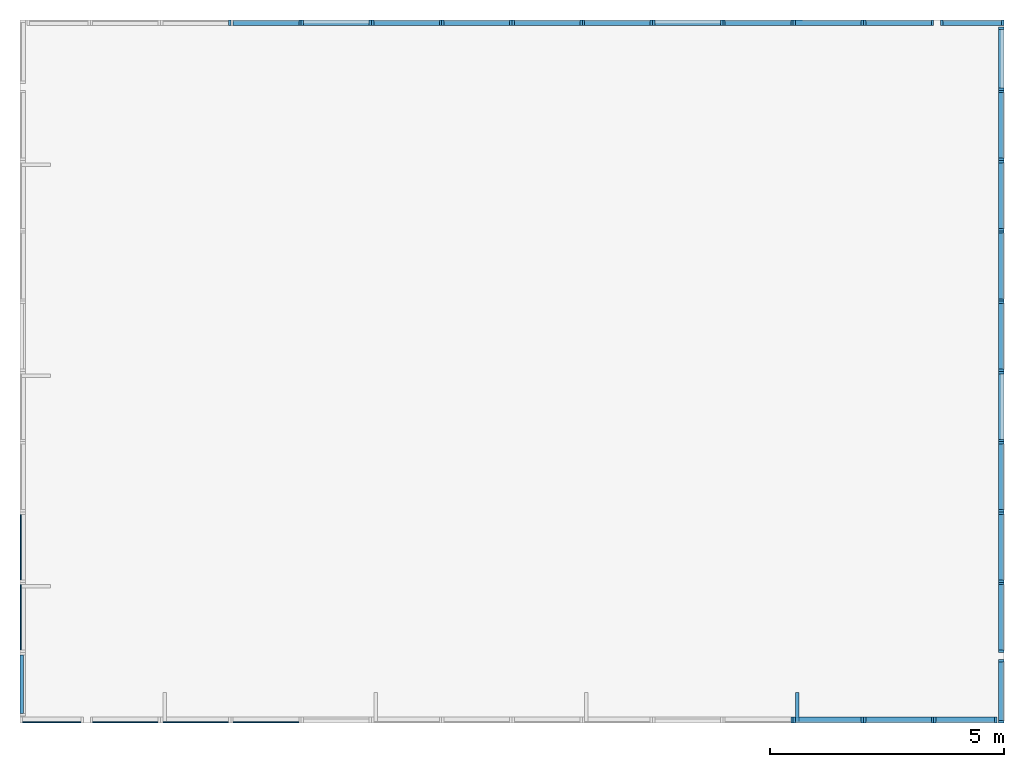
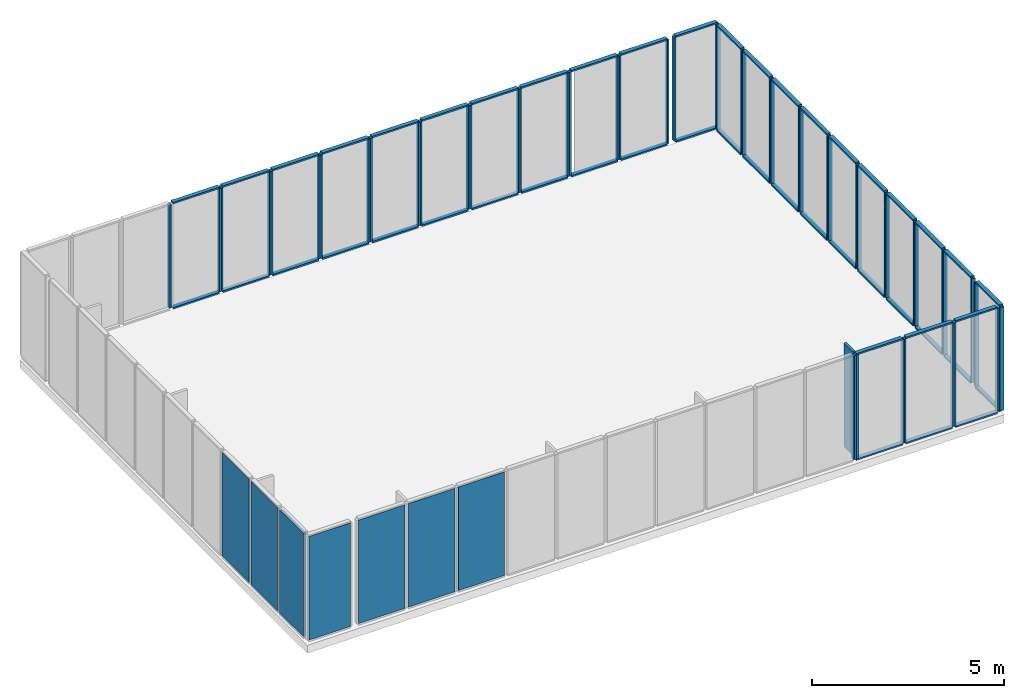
# One storey, part 2 of 3: 98 members, 7 plates.
"""IFC4 building model written with IfcOpenShell, lengths in metres."""

from ifc_helpers import new_model, si_unit, frame, origin_with_axes, place, context, subcontext, project, spatial, indexed_curve, outline, extrude, material, element, save


model = new_model("IFC4")

# Units and contexts
model_context = context("Model", 3, precision=1e-05, world=origin_with_axes())
body_context = subcontext(model_context, "Body", "Model", "MODEL_VIEW")
ifc_project = project(units=[si_unit("AREAUNIT", "SQUARE_METRE"), si_unit("VOLUMEUNIT", "CUBIC_METRE"), si_unit("LENGTHUNIT", "METRE")], contexts=[model_context])

# Site, building, storey
site = spatial("IfcSite", under=ifc_project, Name="Synthetic Site")
building = spatial("IfcBuilding", under=site, Name="Complex Tower")
storey_placement = place(None, frame((0.0, 0.0, 27.0), z_axis=(0.0, 0.0, 1.0), x_axis=(1.0, 0.0, 0.0)))
storey = spatial("IfcBuildingStorey", under=building, at=storey_placement, Name="L08", Elevation=27.0)

# Members
ifc_material_1 = material(Name="Aluminium")
for number, where, z_axis, x_axis, name in (
    (1, (19.45, 1.5, 0.14999999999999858), (0.0, 0.0, 1.0), (1.0, 0.0, 0.0), "CT-L08-S-011-MR"),
    (2, (19.5, 1.5, 0.14999999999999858), (0.0, 0.0, 1.0), (1.0, 0.0, 0.0), "CT-L08-S-012-ML"),
    (3, (20.95, 1.5, 0.14999999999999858), (0.0, 0.0, 1.0), (1.0, 0.0, 0.0), "CT-L08-S-012-MR"),
):
    element("IfcMember", number, at=place(storey_placement, frame(where, z_axis=z_axis, x_axis=x_axis)), inside=storey, material=ifc_material_1, Name=name, PredefinedType="MULLION", context=body_context, shape_type="SweptSolid", body=[
        extrude(outline(indexed_curve([(0.0, 0.0), (0.0, 0.12), (0.05, 0.12), (0.05, 0.0), (0.0, 0.0)], self_intersect=False)), origin_with_axes(), (0.0, 0.0, 1.0), 3.3000000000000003),
    ])
for number, where, z_axis, x_axis, name in (
    (4, (19.55, 1.5, 0.09999999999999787), (0.0, 0.0, 1.0), (1.0, 0.0, 0.0), "CT-L08-S-012-FB"),
    (5, (19.55, 1.5, 3.4499999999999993), (0.0, 0.0, 1.0), (1.0, 0.0, 0.0), "CT-L08-S-012-FT"),
):
    element("IfcMember", number, at=place(storey_placement, frame(where, z_axis=z_axis, x_axis=x_axis)), inside=storey, material=ifc_material_1, Name=name, PredefinedType="MULLION", context=body_context, shape_type="SweptSolid", body=[
        extrude(outline(indexed_curve([(0.0, 0.0), (0.0, 0.12), (1.4, 0.12), (1.4, 0.0), (0.0, 0.0)], self_intersect=False)), origin_with_axes(), (0.0, 0.0, 1.0), 0.05),
    ])
member_1_placement = place(storey_placement, frame((19.55, 1.5, 0.14999999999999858), z_axis=(0.0, 0.0, 1.0), x_axis=(1.0, 0.0, 0.0)))
element("IfcMember", 6, at=member_1_placement, inside=storey, material=ifc_material_1, Name="CT-L08-S-012-FIN", ObjectType="Solar shading", PredefinedType="USERDEFINED", context=body_context, shape_type="SweptSolid", body=[
    extrude(outline(indexed_curve([(0.0, 0.0), (0.0, 0.65), (0.075, 0.65), (0.075, 0.0), (0.0, 0.0)], self_intersect=False)), origin_with_axes(), (0.0, 0.0, 1.0), 3.3000000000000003),
])
for number, where, z_axis, x_axis, name in (
    (7, (21.0, 1.5, 0.14999999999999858), (0.0, 0.0, 1.0), (1.0, 0.0, 0.0), "CT-L08-S-013-ML"),
    (8, (22.45, 1.5, 0.14999999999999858), (0.0, 0.0, 1.0), (1.0, 0.0, 0.0), "CT-L08-S-013-MR"),
):
    element("IfcMember", number, at=place(storey_placement, frame(where, z_axis=z_axis, x_axis=x_axis)), inside=storey, material=ifc_material_1, Name=name, PredefinedType="MULLION", context=body_context, shape_type="SweptSolid", body=[
        extrude(outline(indexed_curve([(0.0, 0.0), (0.0, 0.12), (0.05, 0.12), (0.05, 0.0), (0.0, 0.0)], self_intersect=False)), origin_with_axes(), (0.0, 0.0, 1.0), 3.3000000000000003),
    ])
for number, where, z_axis, x_axis, name in (
    (9, (21.05, 1.5, 0.09999999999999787), (0.0, 0.0, 1.0), (1.0, 0.0, 0.0), "CT-L08-S-013-FB"),
    (10, (21.05, 1.5, 3.4499999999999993), (0.0, 0.0, 1.0), (1.0, 0.0, 0.0), "CT-L08-S-013-FT"),
):
    element("IfcMember", number, at=place(storey_placement, frame(where, z_axis=z_axis, x_axis=x_axis)), inside=storey, material=ifc_material_1, Name=name, PredefinedType="MULLION", context=body_context, shape_type="SweptSolid", body=[
        extrude(outline(indexed_curve([(0.0, 0.0), (0.0, 0.12), (1.4, 0.12), (1.4, 0.0), (0.0, 0.0)], self_intersect=False)), origin_with_axes(), (0.0, 0.0, 1.0), 0.05),
    ])
for number, where, z_axis, x_axis, name in (
    (11, (22.5, 1.5, 0.14999999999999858), (0.0, 0.0, 1.0), (1.0, 0.0, 0.0), "CT-L08-S-014-ML"),
    (12, (23.8, 1.5, 0.14999999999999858), (0.0, 0.0, 1.0), (1.0, 0.0, 0.0), "CT-L08-S-014-MR"),
):
    element("IfcMember", number, at=place(storey_placement, frame(where, z_axis=z_axis, x_axis=x_axis)), inside=storey, material=ifc_material_1, Name=name, PredefinedType="MULLION", context=body_context, shape_type="SweptSolid", body=[
        extrude(outline(indexed_curve([(0.0, 0.0), (0.0, 0.12), (0.05, 0.12), (0.05, 0.0), (0.0, 0.0)], self_intersect=False)), origin_with_axes(), (0.0, 0.0, 1.0), 3.3000000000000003),
    ])
for number, where, z_axis, x_axis, name in (
    (13, (22.55, 1.5, 0.09999999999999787), (0.0, 0.0, 1.0), (1.0, 0.0, 0.0), "CT-L08-S-014-FB"),
    (14, (22.55, 1.5, 3.4499999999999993), (0.0, 0.0, 1.0), (1.0, 0.0, 0.0), "CT-L08-S-014-FT"),
):
    element("IfcMember", number, at=place(storey_placement, frame(where, z_axis=z_axis, x_axis=x_axis)), inside=storey, material=ifc_material_1, Name=name, PredefinedType="MULLION", context=body_context, shape_type="SweptSolid", body=[
        extrude(outline(indexed_curve([(0.0, 0.0), (0.0, 0.12), (1.25, 0.12), (1.25, 0.0), (0.0, 0.0)], self_intersect=False)), origin_with_axes(), (0.0, 0.0, 1.0), 0.05),
    ])
for number, where, z_axis, x_axis, name in (
    (15, (24.0, 1.5, 0.14999999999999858), (0.0, 0.0, 1.0), (6.123233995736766e-17, 1.0, 0.0), "CT-L08-E-001-ML"),
    (16, (24.0, 2.8, 0.14999999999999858), (0.0, 0.0, 1.0), (6.123233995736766e-17, 1.0, 0.0), "CT-L08-E-001-MR"),
):
    element("IfcMember", number, at=place(storey_placement, frame(where, z_axis=z_axis, x_axis=x_axis)), inside=storey, material=ifc_material_1, Name=name, PredefinedType="MULLION", context=body_context, shape_type="SweptSolid", body=[
        extrude(outline(indexed_curve([(0.0, 0.0), (0.0, 0.12), (0.05, 0.12), (0.05, 0.0), (0.0, 0.0)], self_intersect=False)), origin_with_axes(), (0.0, 0.0, 1.0), 3.3000000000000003),
    ])
for number, where, z_axis, x_axis, name in (
    (17, (24.0, 1.55, 0.09999999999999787), (0.0, 0.0, 1.0), (6.123233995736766e-17, 1.0, 0.0), "CT-L08-E-001-FB"),
    (18, (24.0, 1.55, 3.4499999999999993), (0.0, 0.0, 1.0), (6.123233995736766e-17, 1.0, 0.0), "CT-L08-E-001-FT"),
):
    element("IfcMember", number, at=place(storey_placement, frame(where, z_axis=z_axis, x_axis=x_axis)), inside=storey, material=ifc_material_1, Name=name, PredefinedType="MULLION", context=body_context, shape_type="SweptSolid", body=[
        extrude(outline(indexed_curve([(0.0, 0.0), (0.0, 0.12), (1.25, 0.12), (1.25, 0.0), (0.0, 0.0)], self_intersect=False)), origin_with_axes(), (0.0, 0.0, 1.0), 0.05),
    ])
for number, where, z_axis, x_axis, name in (
    (19, (24.0, 3.0, 0.14999999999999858), (0.0, 0.0, 1.0), (6.123233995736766e-17, 1.0, 0.0), "CT-L08-E-002-ML"),
    (20, (24.0, 4.449999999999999, 0.14999999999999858), (0.0, 0.0, 1.0), (6.123233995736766e-17, 1.0, 0.0), "CT-L08-E-002-MR"),
):
    element("IfcMember", number, at=place(storey_placement, frame(where, z_axis=z_axis, x_axis=x_axis)), inside=storey, material=ifc_material_1, Name=name, PredefinedType="MULLION", context=body_context, shape_type="SweptSolid", body=[
        extrude(outline(indexed_curve([(0.0, 0.0), (0.0, 0.12), (0.05, 0.12), (0.05, 0.0), (0.0, 0.0)], self_intersect=False)), origin_with_axes(), (0.0, 0.0, 1.0), 3.3000000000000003),
    ])
for number, where, z_axis, x_axis, name in (
    (21, (24.0, 3.05, 0.09999999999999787), (0.0, 0.0, 1.0), (6.123233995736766e-17, 1.0, 0.0), "CT-L08-E-002-FB"),
    (22, (24.0, 3.05, 3.4499999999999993), (0.0, 0.0, 1.0), (6.123233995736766e-17, 1.0, 0.0), "CT-L08-E-002-FT"),
):
    element("IfcMember", number, at=place(storey_placement, frame(where, z_axis=z_axis, x_axis=x_axis)), inside=storey, material=ifc_material_1, Name=name, PredefinedType="MULLION", context=body_context, shape_type="SweptSolid", body=[
        extrude(outline(indexed_curve([(0.0, 0.0), (0.0, 0.12), (1.4, 0.12), (1.4, 0.0), (0.0, 0.0)], self_intersect=False)), origin_with_axes(), (0.0, 0.0, 1.0), 0.05),
    ])
for number, where, z_axis, x_axis, name in (
    (23, (24.0, 4.5, 0.14999999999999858), (0.0, 0.0, 1.0), (6.123233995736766e-17, 1.0, 0.0), "CT-L08-E-003-ML"),
    (24, (24.0, 5.949999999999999, 0.14999999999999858), (0.0, 0.0, 1.0), (6.123233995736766e-17, 1.0, 0.0), "CT-L08-E-003-MR"),
):
    element("IfcMember", number, at=place(storey_placement, frame(where, z_axis=z_axis, x_axis=x_axis)), inside=storey, material=ifc_material_1, Name=name, PredefinedType="MULLION", context=body_context, shape_type="SweptSolid", body=[
        extrude(outline(indexed_curve([(0.0, 0.0), (0.0, 0.12), (0.05, 0.12), (0.05, 0.0), (0.0, 0.0)], self_intersect=False)), origin_with_axes(), (0.0, 0.0, 1.0), 3.3000000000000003),
    ])
for number, where, z_axis, x_axis, name in (
    (25, (24.0, 4.55, 0.09999999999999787), (0.0, 0.0, 1.0), (6.123233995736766e-17, 1.0, 0.0), "CT-L08-E-003-FB"),
    (26, (24.0, 4.55, 3.4499999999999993), (0.0, 0.0, 1.0), (6.123233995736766e-17, 1.0, 0.0), "CT-L08-E-003-FT"),
):
    element("IfcMember", number, at=place(storey_placement, frame(where, z_axis=z_axis, x_axis=x_axis)), inside=storey, material=ifc_material_1, Name=name, PredefinedType="MULLION", context=body_context, shape_type="SweptSolid", body=[
        extrude(outline(indexed_curve([(0.0, 0.0), (0.0, 0.12), (1.4, 0.12), (1.4, 0.0), (0.0, 0.0)], self_intersect=False)), origin_with_axes(), (0.0, 0.0, 1.0), 0.05),
    ])
for number, where, z_axis, x_axis, name in (
    (27, (24.0, 6.0, 0.14999999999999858), (0.0, 0.0, 1.0), (6.123233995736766e-17, 1.0, 0.0), "CT-L08-E-004-ML"),
    (28, (24.0, 7.449999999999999, 0.14999999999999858), (0.0, 0.0, 1.0), (6.123233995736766e-17, 1.0, 0.0), "CT-L08-E-004-MR"),
):
    element("IfcMember", number, at=place(storey_placement, frame(where, z_axis=z_axis, x_axis=x_axis)), inside=storey, material=ifc_material_1, Name=name, PredefinedType="MULLION", context=body_context, shape_type="SweptSolid", body=[
        extrude(outline(indexed_curve([(0.0, 0.0), (0.0, 0.12), (0.05, 0.12), (0.05, 0.0), (0.0, 0.0)], self_intersect=False)), origin_with_axes(), (0.0, 0.0, 1.0), 3.3000000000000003),
    ])
for number, where, z_axis, x_axis, name in (
    (29, (24.0, 6.05, 0.09999999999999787), (0.0, 0.0, 1.0), (6.123233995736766e-17, 1.0, 0.0), "CT-L08-E-004-FB"),
    (30, (24.0, 6.05, 3.4499999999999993), (0.0, 0.0, 1.0), (6.123233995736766e-17, 1.0, 0.0), "CT-L08-E-004-FT"),
):
    element("IfcMember", number, at=place(storey_placement, frame(where, z_axis=z_axis, x_axis=x_axis)), inside=storey, material=ifc_material_1, Name=name, PredefinedType="MULLION", context=body_context, shape_type="SweptSolid", body=[
        extrude(outline(indexed_curve([(0.0, 0.0), (0.0, 0.12), (1.4, 0.12), (1.4, 0.0), (0.0, 0.0)], self_intersect=False)), origin_with_axes(), (0.0, 0.0, 1.0), 0.05),
    ])
for number, where, z_axis, x_axis, name in (
    (31, (24.0, 7.5, 0.14999999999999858), (0.0, 0.0, 1.0), (6.123233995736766e-17, 1.0, 0.0), "CT-L08-E-005-ML"),
    (32, (24.0, 8.95, 0.14999999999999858), (0.0, 0.0, 1.0), (6.123233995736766e-17, 1.0, 0.0), "CT-L08-E-005-MR"),
):
    element("IfcMember", number, at=place(storey_placement, frame(where, z_axis=z_axis, x_axis=x_axis)), inside=storey, material=ifc_material_1, Name=name, PredefinedType="MULLION", context=body_context, shape_type="SweptSolid", body=[
        extrude(outline(indexed_curve([(0.0, 0.0), (0.0, 0.12), (0.05, 0.12), (0.05, 0.0), (0.0, 0.0)], self_intersect=False)), origin_with_axes(), (0.0, 0.0, 1.0), 3.3000000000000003),
    ])
for number, where, z_axis, x_axis, name in (
    (33, (24.0, 7.55, 0.09999999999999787), (0.0, 0.0, 1.0), (6.123233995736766e-17, 1.0, 0.0), "CT-L08-E-005-FB"),
    (34, (24.0, 7.55, 3.4499999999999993), (0.0, 0.0, 1.0), (6.123233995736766e-17, 1.0, 0.0), "CT-L08-E-005-FT"),
):
    element("IfcMember", number, at=place(storey_placement, frame(where, z_axis=z_axis, x_axis=x_axis)), inside=storey, material=ifc_material_1, Name=name, PredefinedType="MULLION", context=body_context, shape_type="SweptSolid", body=[
        extrude(outline(indexed_curve([(0.0, 0.0), (0.0, 0.12), (1.4, 0.12), (1.4, 0.0), (0.0, 0.0)], self_intersect=False)), origin_with_axes(), (0.0, 0.0, 1.0), 0.05),
    ])
for number, where, z_axis, x_axis, name in (
    (35, (24.0, 9.0, 0.14999999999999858), (0.0, 0.0, 1.0), (6.123233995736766e-17, 1.0, 0.0), "CT-L08-E-006-ML"),
    (36, (24.0, 10.450000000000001, 0.14999999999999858), (0.0, 0.0, 1.0), (6.123233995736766e-17, 1.0, 0.0), "CT-L08-E-006-MR"),
):
    element("IfcMember", number, at=place(storey_placement, frame(where, z_axis=z_axis, x_axis=x_axis)), inside=storey, material=ifc_material_1, Name=name, PredefinedType="MULLION", context=body_context, shape_type="SweptSolid", body=[
        extrude(outline(indexed_curve([(0.0, 0.0), (0.0, 0.12), (0.05, 0.12), (0.05, 0.0), (0.0, 0.0)], self_intersect=False)), origin_with_axes(), (0.0, 0.0, 1.0), 3.3000000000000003),
    ])
for number, where, z_axis, x_axis, name in (
    (37, (24.0, 9.05, 0.09999999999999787), (0.0, 0.0, 1.0), (6.123233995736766e-17, 1.0, 0.0), "CT-L08-E-006-FB"),
    (38, (24.0, 9.05, 3.4499999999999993), (0.0, 0.0, 1.0), (6.123233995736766e-17, 1.0, 0.0), "CT-L08-E-006-FT"),
):
    element("IfcMember", number, at=place(storey_placement, frame(where, z_axis=z_axis, x_axis=x_axis)), inside=storey, material=ifc_material_1, Name=name, PredefinedType="MULLION", context=body_context, shape_type="SweptSolid", body=[
        extrude(outline(indexed_curve([(0.0, 0.0), (0.0, 0.12), (1.4, 0.12), (1.4, 0.0), (0.0, 0.0)], self_intersect=False)), origin_with_axes(), (0.0, 0.0, 1.0), 0.05),
    ])
for number, where, z_axis, x_axis, name in (
    (39, (24.0, 10.5, 0.14999999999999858), (0.0, 0.0, 1.0), (6.123233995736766e-17, 1.0, 0.0), "CT-L08-E-007-ML"),
    (40, (24.0, 11.950000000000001, 0.14999999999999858), (0.0, 0.0, 1.0), (6.123233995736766e-17, 1.0, 0.0), "CT-L08-E-007-MR"),
):
    element("IfcMember", number, at=place(storey_placement, frame(where, z_axis=z_axis, x_axis=x_axis)), inside=storey, material=ifc_material_1, Name=name, PredefinedType="MULLION", context=body_context, shape_type="SweptSolid", body=[
        extrude(outline(indexed_curve([(0.0, 0.0), (0.0, 0.12), (0.05, 0.12), (0.05, 0.0), (0.0, 0.0)], self_intersect=False)), origin_with_axes(), (0.0, 0.0, 1.0), 3.3000000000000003),
    ])
for number, where, z_axis, x_axis, name in (
    (41, (24.0, 10.55, 0.09999999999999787), (0.0, 0.0, 1.0), (6.123233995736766e-17, 1.0, 0.0), "CT-L08-E-007-FB"),
    (42, (24.0, 10.55, 3.4499999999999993), (0.0, 0.0, 1.0), (6.123233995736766e-17, 1.0, 0.0), "CT-L08-E-007-FT"),
):
    element("IfcMember", number, at=place(storey_placement, frame(where, z_axis=z_axis, x_axis=x_axis)), inside=storey, material=ifc_material_1, Name=name, PredefinedType="MULLION", context=body_context, shape_type="SweptSolid", body=[
        extrude(outline(indexed_curve([(0.0, 0.0), (0.0, 0.12), (1.4, 0.12), (1.4, 0.0), (0.0, 0.0)], self_intersect=False)), origin_with_axes(), (0.0, 0.0, 1.0), 0.05),
    ])
for number, where, z_axis, x_axis, name in (
    (43, (24.0, 12.0, 0.14999999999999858), (0.0, 0.0, 1.0), (6.123233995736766e-17, 1.0, 0.0), "CT-L08-E-008-ML"),
    (44, (24.0, 13.450000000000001, 0.14999999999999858), (0.0, 0.0, 1.0), (6.123233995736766e-17, 1.0, 0.0), "CT-L08-E-008-MR"),
):
    element("IfcMember", number, at=place(storey_placement, frame(where, z_axis=z_axis, x_axis=x_axis)), inside=storey, material=ifc_material_1, Name=name, PredefinedType="MULLION", context=body_context, shape_type="SweptSolid", body=[
        extrude(outline(indexed_curve([(0.0, 0.0), (0.0, 0.12), (0.05, 0.12), (0.05, 0.0), (0.0, 0.0)], self_intersect=False)), origin_with_axes(), (0.0, 0.0, 1.0), 3.3000000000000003),
    ])
for number, where, z_axis, x_axis, name in (
    (45, (24.0, 12.05, 0.09999999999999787), (0.0, 0.0, 1.0), (6.123233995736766e-17, 1.0, 0.0), "CT-L08-E-008-FB"),
    (46, (24.0, 12.05, 3.4499999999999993), (0.0, 0.0, 1.0), (6.123233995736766e-17, 1.0, 0.0), "CT-L08-E-008-FT"),
):
    element("IfcMember", number, at=place(storey_placement, frame(where, z_axis=z_axis, x_axis=x_axis)), inside=storey, material=ifc_material_1, Name=name, PredefinedType="MULLION", context=body_context, shape_type="SweptSolid", body=[
        extrude(outline(indexed_curve([(0.0, 0.0), (0.0, 0.12), (1.4, 0.12), (1.4, 0.0), (0.0, 0.0)], self_intersect=False)), origin_with_axes(), (0.0, 0.0, 1.0), 0.05),
    ])
for number, where, z_axis, x_axis, name in (
    (47, (24.0, 13.5, 0.14999999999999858), (0.0, 0.0, 1.0), (6.123233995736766e-17, 1.0, 0.0), "CT-L08-E-009-ML"),
    (48, (24.0, 14.950000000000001, 0.14999999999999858), (0.0, 0.0, 1.0), (6.123233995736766e-17, 1.0, 0.0), "CT-L08-E-009-MR"),
):
    element("IfcMember", number, at=place(storey_placement, frame(where, z_axis=z_axis, x_axis=x_axis)), inside=storey, material=ifc_material_1, Name=name, PredefinedType="MULLION", context=body_context, shape_type="SweptSolid", body=[
        extrude(outline(indexed_curve([(0.0, 0.0), (0.0, 0.12), (0.05, 0.12), (0.05, 0.0), (0.0, 0.0)], self_intersect=False)), origin_with_axes(), (0.0, 0.0, 1.0), 3.3000000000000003),
    ])
for number, where, z_axis, x_axis, name in (
    (49, (24.0, 13.55, 0.09999999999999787), (0.0, 0.0, 1.0), (6.123233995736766e-17, 1.0, 0.0), "CT-L08-E-009-FB"),
    (50, (24.0, 13.55, 3.4499999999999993), (0.0, 0.0, 1.0), (6.123233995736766e-17, 1.0, 0.0), "CT-L08-E-009-FT"),
):
    element("IfcMember", number, at=place(storey_placement, frame(where, z_axis=z_axis, x_axis=x_axis)), inside=storey, material=ifc_material_1, Name=name, PredefinedType="MULLION", context=body_context, shape_type="SweptSolid", body=[
        extrude(outline(indexed_curve([(0.0, 0.0), (0.0, 0.12), (1.4, 0.12), (1.4, 0.0), (0.0, 0.0)], self_intersect=False)), origin_with_axes(), (0.0, 0.0, 1.0), 0.05),
    ])
for number, where, z_axis, x_axis, name in (
    (51, (24.0, 15.0, 0.14999999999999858), (0.0, 0.0, 1.0), (6.123233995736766e-17, 1.0, 0.0), "CT-L08-E-010-ML"),
    (52, (24.0, 16.3, 0.14999999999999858), (0.0, 0.0, 1.0), (6.123233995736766e-17, 1.0, 0.0), "CT-L08-E-010-MR"),
):
    element("IfcMember", number, at=place(storey_placement, frame(where, z_axis=z_axis, x_axis=x_axis)), inside=storey, material=ifc_material_1, Name=name, PredefinedType="MULLION", context=body_context, shape_type="SweptSolid", body=[
        extrude(outline(indexed_curve([(0.0, 0.0), (0.0, 0.12), (0.05, 0.12), (0.05, 0.0), (0.0, 0.0)], self_intersect=False)), origin_with_axes(), (0.0, 0.0, 1.0), 3.3000000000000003),
    ])
for number, where, z_axis, x_axis, name in (
    (53, (24.0, 15.05, 0.09999999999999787), (0.0, 0.0, 1.0), (6.123233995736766e-17, 1.0, 0.0), "CT-L08-E-010-FB"),
    (54, (24.0, 15.05, 3.4499999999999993), (0.0, 0.0, 1.0), (6.123233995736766e-17, 1.0, 0.0), "CT-L08-E-010-FT"),
):
    element("IfcMember", number, at=place(storey_placement, frame(where, z_axis=z_axis, x_axis=x_axis)), inside=storey, material=ifc_material_1, Name=name, PredefinedType="MULLION", context=body_context, shape_type="SweptSolid", body=[
        extrude(outline(indexed_curve([(0.0, 0.0), (0.0, 0.12), (1.25, 0.12), (1.25, 0.0), (0.0, 0.0)], self_intersect=False)), origin_with_axes(), (0.0, 0.0, 1.0), 0.05),
    ])
for number, where, z_axis, x_axis, name in (
    (55, (24.0, 16.5, 0.14999999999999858), (0.0, 0.0, 1.0), (-1.0, 1.2246467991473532e-16, 0.0), "CT-L08-N-001-ML"),
    (56, (22.7, 16.5, 0.14999999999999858), (0.0, 0.0, 1.0), (-1.0, 1.2246467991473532e-16, 0.0), "CT-L08-N-001-MR"),
):
    element("IfcMember", number, at=place(storey_placement, frame(where, z_axis=z_axis, x_axis=x_axis)), inside=storey, material=ifc_material_1, Name=name, PredefinedType="MULLION", context=body_context, shape_type="SweptSolid", body=[
        extrude(outline(indexed_curve([(0.0, 0.0), (0.0, 0.12), (0.05, 0.12), (0.05, 0.0), (0.0, 0.0)], self_intersect=False)), origin_with_axes(), (0.0, 0.0, 1.0), 3.3000000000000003),
    ])
for number, where, z_axis, x_axis, name in (
    (57, (23.95, 16.5, 0.09999999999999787), (0.0, 0.0, 1.0), (-1.0, 1.2246467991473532e-16, 0.0), "CT-L08-N-001-FB"),
    (58, (23.95, 16.5, 3.4499999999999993), (0.0, 0.0, 1.0), (-1.0, 1.2246467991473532e-16, 0.0), "CT-L08-N-001-FT"),
):
    element("IfcMember", number, at=place(storey_placement, frame(where, z_axis=z_axis, x_axis=x_axis)), inside=storey, material=ifc_material_1, Name=name, PredefinedType="MULLION", context=body_context, shape_type="SweptSolid", body=[
        extrude(outline(indexed_curve([(0.0, 0.0), (0.0, 0.12), (1.25, 0.12), (1.25, 0.0), (0.0, 0.0)], self_intersect=False)), origin_with_axes(), (0.0, 0.0, 1.0), 0.05),
    ])
for number, where, z_axis, x_axis, name in (
    (59, (22.5, 16.5, 0.14999999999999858), (0.0, 0.0, 1.0), (-1.0, 1.2246467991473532e-16, 0.0), "CT-L08-N-002-ML"),
    (60, (21.05, 16.5, 0.14999999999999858), (0.0, 0.0, 1.0), (-1.0, 1.2246467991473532e-16, 0.0), "CT-L08-N-002-MR"),
):
    element("IfcMember", number, at=place(storey_placement, frame(where, z_axis=z_axis, x_axis=x_axis)), inside=storey, material=ifc_material_1, Name=name, PredefinedType="MULLION", context=body_context, shape_type="SweptSolid", body=[
        extrude(outline(indexed_curve([(0.0, 0.0), (0.0, 0.12), (0.05, 0.12), (0.05, 0.0), (0.0, 0.0)], self_intersect=False)), origin_with_axes(), (0.0, 0.0, 1.0), 3.3000000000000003),
    ])
for number, where, z_axis, x_axis, name in (
    (61, (22.45, 16.5, 0.09999999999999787), (0.0, 0.0, 1.0), (-1.0, 1.2246467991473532e-16, 0.0), "CT-L08-N-002-FB"),
    (62, (22.45, 16.5, 3.4499999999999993), (0.0, 0.0, 1.0), (-1.0, 1.2246467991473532e-16, 0.0), "CT-L08-N-002-FT"),
):
    element("IfcMember", number, at=place(storey_placement, frame(where, z_axis=z_axis, x_axis=x_axis)), inside=storey, material=ifc_material_1, Name=name, PredefinedType="MULLION", context=body_context, shape_type="SweptSolid", body=[
        extrude(outline(indexed_curve([(0.0, 0.0), (0.0, 0.12), (1.4, 0.12), (1.4, 0.0), (0.0, 0.0)], self_intersect=False)), origin_with_axes(), (0.0, 0.0, 1.0), 0.05),
    ])
for number, where, z_axis, x_axis, name in (
    (63, (21.0, 16.5, 0.14999999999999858), (0.0, 0.0, 1.0), (-1.0, 1.2246467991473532e-16, 0.0), "CT-L08-N-003-ML"),
    (64, (19.55, 16.5, 0.14999999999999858), (0.0, 0.0, 1.0), (-1.0, 1.2246467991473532e-16, 0.0), "CT-L08-N-003-MR"),
):
    element("IfcMember", number, at=place(storey_placement, frame(where, z_axis=z_axis, x_axis=x_axis)), inside=storey, material=ifc_material_1, Name=name, PredefinedType="MULLION", context=body_context, shape_type="SweptSolid", body=[
        extrude(outline(indexed_curve([(0.0, 0.0), (0.0, 0.12), (0.05, 0.12), (0.05, 0.0), (0.0, 0.0)], self_intersect=False)), origin_with_axes(), (0.0, 0.0, 1.0), 3.3000000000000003),
    ])
for number, where, z_axis, x_axis, name in (
    (65, (20.95, 16.5, 0.09999999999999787), (0.0, 0.0, 1.0), (-1.0, 1.2246467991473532e-16, 0.0), "CT-L08-N-003-FB"),
    (66, (20.95, 16.5, 3.4499999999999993), (0.0, 0.0, 1.0), (-1.0, 1.2246467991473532e-16, 0.0), "CT-L08-N-003-FT"),
):
    element("IfcMember", number, at=place(storey_placement, frame(where, z_axis=z_axis, x_axis=x_axis)), inside=storey, material=ifc_material_1, Name=name, PredefinedType="MULLION", context=body_context, shape_type="SweptSolid", body=[
        extrude(outline(indexed_curve([(0.0, 0.0), (0.0, 0.12), (1.4, 0.12), (1.4, 0.0), (0.0, 0.0)], self_intersect=False)), origin_with_axes(), (0.0, 0.0, 1.0), 0.05),
    ])
for number, where, z_axis, x_axis, name in (
    (67, (19.5, 16.5, 0.14999999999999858), (0.0, 0.0, 1.0), (-1.0, 1.2246467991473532e-16, 0.0), "CT-L08-N-004-ML"),
    (68, (18.05, 16.5, 0.14999999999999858), (0.0, 0.0, 1.0), (-1.0, 1.2246467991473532e-16, 0.0), "CT-L08-N-004-MR"),
):
    element("IfcMember", number, at=place(storey_placement, frame(where, z_axis=z_axis, x_axis=x_axis)), inside=storey, material=ifc_material_1, Name=name, PredefinedType="MULLION", context=body_context, shape_type="SweptSolid", body=[
        extrude(outline(indexed_curve([(0.0, 0.0), (0.0, 0.12), (0.05, 0.12), (0.05, 0.0), (0.0, 0.0)], self_intersect=False)), origin_with_axes(), (0.0, 0.0, 1.0), 3.3000000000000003),
    ])
for number, where, z_axis, x_axis, name in (
    (69, (19.45, 16.5, 0.09999999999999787), (0.0, 0.0, 1.0), (-1.0, 1.2246467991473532e-16, 0.0), "CT-L08-N-004-FB"),
    (70, (19.45, 16.5, 3.4499999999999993), (0.0, 0.0, 1.0), (-1.0, 1.2246467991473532e-16, 0.0), "CT-L08-N-004-FT"),
):
    element("IfcMember", number, at=place(storey_placement, frame(where, z_axis=z_axis, x_axis=x_axis)), inside=storey, material=ifc_material_1, Name=name, PredefinedType="MULLION", context=body_context, shape_type="SweptSolid", body=[
        extrude(outline(indexed_curve([(0.0, 0.0), (0.0, 0.12), (1.4, 0.12), (1.4, 0.0), (0.0, 0.0)], self_intersect=False)), origin_with_axes(), (0.0, 0.0, 1.0), 0.05),
    ])
for number, where, z_axis, x_axis, name in (
    (71, (18.0, 16.5, 0.14999999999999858), (0.0, 0.0, 1.0), (-1.0, 1.2246467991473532e-16, 0.0), "CT-L08-N-005-ML"),
    (72, (16.55, 16.5, 0.14999999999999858), (0.0, 0.0, 1.0), (-1.0, 1.2246467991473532e-16, 0.0), "CT-L08-N-005-MR"),
):
    element("IfcMember", number, at=place(storey_placement, frame(where, z_axis=z_axis, x_axis=x_axis)), inside=storey, material=ifc_material_1, Name=name, PredefinedType="MULLION", context=body_context, shape_type="SweptSolid", body=[
        extrude(outline(indexed_curve([(0.0, 0.0), (0.0, 0.12), (0.05, 0.12), (0.05, 0.0), (0.0, 0.0)], self_intersect=False)), origin_with_axes(), (0.0, 0.0, 1.0), 3.3000000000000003),
    ])
for number, where, z_axis, x_axis, name in (
    (73, (17.95, 16.5, 0.09999999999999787), (0.0, 0.0, 1.0), (-1.0, 1.2246467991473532e-16, 0.0), "CT-L08-N-005-FB"),
    (74, (17.95, 16.5, 3.4499999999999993), (0.0, 0.0, 1.0), (-1.0, 1.2246467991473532e-16, 0.0), "CT-L08-N-005-FT"),
):
    element("IfcMember", number, at=place(storey_placement, frame(where, z_axis=z_axis, x_axis=x_axis)), inside=storey, material=ifc_material_1, Name=name, PredefinedType="MULLION", context=body_context, shape_type="SweptSolid", body=[
        extrude(outline(indexed_curve([(0.0, 0.0), (0.0, 0.12), (1.4, 0.12), (1.4, 0.0), (0.0, 0.0)], self_intersect=False)), origin_with_axes(), (0.0, 0.0, 1.0), 0.05),
    ])
for number, where, z_axis, x_axis, name in (
    (75, (16.5, 16.5, 0.14999999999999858), (0.0, 0.0, 1.0), (-1.0, 1.2246467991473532e-16, 0.0), "CT-L08-N-006-ML"),
    (76, (15.049999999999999, 16.5, 0.14999999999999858), (0.0, 0.0, 1.0), (-1.0, 1.2246467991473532e-16, 0.0), "CT-L08-N-006-MR"),
):
    element("IfcMember", number, at=place(storey_placement, frame(where, z_axis=z_axis, x_axis=x_axis)), inside=storey, material=ifc_material_1, Name=name, PredefinedType="MULLION", context=body_context, shape_type="SweptSolid", body=[
        extrude(outline(indexed_curve([(0.0, 0.0), (0.0, 0.12), (0.05, 0.12), (0.05, 0.0), (0.0, 0.0)], self_intersect=False)), origin_with_axes(), (0.0, 0.0, 1.0), 3.3000000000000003),
    ])
for number, where, z_axis, x_axis, name in (
    (77, (16.45, 16.5, 0.09999999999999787), (0.0, 0.0, 1.0), (-1.0, 1.2246467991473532e-16, 0.0), "CT-L08-N-006-FB"),
    (78, (16.45, 16.5, 3.4499999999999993), (0.0, 0.0, 1.0), (-1.0, 1.2246467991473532e-16, 0.0), "CT-L08-N-006-FT"),
):
    element("IfcMember", number, at=place(storey_placement, frame(where, z_axis=z_axis, x_axis=x_axis)), inside=storey, material=ifc_material_1, Name=name, PredefinedType="MULLION", context=body_context, shape_type="SweptSolid", body=[
        extrude(outline(indexed_curve([(0.0, 0.0), (0.0, 0.12), (1.4, 0.12), (1.4, 0.0), (0.0, 0.0)], self_intersect=False)), origin_with_axes(), (0.0, 0.0, 1.0), 0.05),
    ])
for number, where, z_axis, x_axis, name in (
    (79, (15.0, 16.5, 0.14999999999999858), (0.0, 0.0, 1.0), (-1.0, 1.2246467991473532e-16, 0.0), "CT-L08-N-007-ML"),
    (80, (13.549999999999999, 16.5, 0.14999999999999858), (0.0, 0.0, 1.0), (-1.0, 1.2246467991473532e-16, 0.0), "CT-L08-N-007-MR"),
):
    element("IfcMember", number, at=place(storey_placement, frame(where, z_axis=z_axis, x_axis=x_axis)), inside=storey, material=ifc_material_1, Name=name, PredefinedType="MULLION", context=body_context, shape_type="SweptSolid", body=[
        extrude(outline(indexed_curve([(0.0, 0.0), (0.0, 0.12), (0.05, 0.12), (0.05, 0.0), (0.0, 0.0)], self_intersect=False)), origin_with_axes(), (0.0, 0.0, 1.0), 3.3000000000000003),
    ])
for number, where, z_axis, x_axis, name in (
    (81, (14.95, 16.5, 0.09999999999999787), (0.0, 0.0, 1.0), (-1.0, 1.2246467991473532e-16, 0.0), "CT-L08-N-007-FB"),
    (82, (14.95, 16.5, 3.4499999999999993), (0.0, 0.0, 1.0), (-1.0, 1.2246467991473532e-16, 0.0), "CT-L08-N-007-FT"),
):
    element("IfcMember", number, at=place(storey_placement, frame(where, z_axis=z_axis, x_axis=x_axis)), inside=storey, material=ifc_material_1, Name=name, PredefinedType="MULLION", context=body_context, shape_type="SweptSolid", body=[
        extrude(outline(indexed_curve([(0.0, 0.0), (0.0, 0.12), (1.4, 0.12), (1.4, 0.0), (0.0, 0.0)], self_intersect=False)), origin_with_axes(), (0.0, 0.0, 1.0), 0.05),
    ])
for number, where, z_axis, x_axis, name in (
    (83, (13.5, 16.5, 0.14999999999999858), (0.0, 0.0, 1.0), (-1.0, 1.2246467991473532e-16, 0.0), "CT-L08-N-008-ML"),
    (84, (12.049999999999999, 16.5, 0.14999999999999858), (0.0, 0.0, 1.0), (-1.0, 1.2246467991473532e-16, 0.0), "CT-L08-N-008-MR"),
):
    element("IfcMember", number, at=place(storey_placement, frame(where, z_axis=z_axis, x_axis=x_axis)), inside=storey, material=ifc_material_1, Name=name, PredefinedType="MULLION", context=body_context, shape_type="SweptSolid", body=[
        extrude(outline(indexed_curve([(0.0, 0.0), (0.0, 0.12), (0.05, 0.12), (0.05, 0.0), (0.0, 0.0)], self_intersect=False)), origin_with_axes(), (0.0, 0.0, 1.0), 3.3000000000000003),
    ])
for number, where, z_axis, x_axis, name in (
    (85, (13.45, 16.5, 0.09999999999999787), (0.0, 0.0, 1.0), (-1.0, 1.2246467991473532e-16, 0.0), "CT-L08-N-008-FB"),
    (86, (13.45, 16.5, 3.4499999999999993), (0.0, 0.0, 1.0), (-1.0, 1.2246467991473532e-16, 0.0), "CT-L08-N-008-FT"),
):
    element("IfcMember", number, at=place(storey_placement, frame(where, z_axis=z_axis, x_axis=x_axis)), inside=storey, material=ifc_material_1, Name=name, PredefinedType="MULLION", context=body_context, shape_type="SweptSolid", body=[
        extrude(outline(indexed_curve([(0.0, 0.0), (0.0, 0.12), (1.4, 0.12), (1.4, 0.0), (0.0, 0.0)], self_intersect=False)), origin_with_axes(), (0.0, 0.0, 1.0), 0.05),
    ])
for number, where, z_axis, x_axis, name in (
    (87, (12.0, 16.5, 0.14999999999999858), (0.0, 0.0, 1.0), (-1.0, 1.2246467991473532e-16, 0.0), "CT-L08-N-009-ML"),
    (88, (10.549999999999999, 16.5, 0.14999999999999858), (0.0, 0.0, 1.0), (-1.0, 1.2246467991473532e-16, 0.0), "CT-L08-N-009-MR"),
):
    element("IfcMember", number, at=place(storey_placement, frame(where, z_axis=z_axis, x_axis=x_axis)), inside=storey, material=ifc_material_1, Name=name, PredefinedType="MULLION", context=body_context, shape_type="SweptSolid", body=[
        extrude(outline(indexed_curve([(0.0, 0.0), (0.0, 0.12), (0.05, 0.12), (0.05, 0.0), (0.0, 0.0)], self_intersect=False)), origin_with_axes(), (0.0, 0.0, 1.0), 3.3000000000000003),
    ])
for number, where, z_axis, x_axis, name in (
    (89, (11.95, 16.5, 0.09999999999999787), (0.0, 0.0, 1.0), (-1.0, 1.2246467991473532e-16, 0.0), "CT-L08-N-009-FB"),
    (90, (11.95, 16.5, 3.4499999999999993), (0.0, 0.0, 1.0), (-1.0, 1.2246467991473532e-16, 0.0), "CT-L08-N-009-FT"),
):
    element("IfcMember", number, at=place(storey_placement, frame(where, z_axis=z_axis, x_axis=x_axis)), inside=storey, material=ifc_material_1, Name=name, PredefinedType="MULLION", context=body_context, shape_type="SweptSolid", body=[
        extrude(outline(indexed_curve([(0.0, 0.0), (0.0, 0.12), (1.4, 0.12), (1.4, 0.0), (0.0, 0.0)], self_intersect=False)), origin_with_axes(), (0.0, 0.0, 1.0), 0.05),
    ])
for number, where, z_axis, x_axis, name in (
    (91, (10.5, 16.5, 0.14999999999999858), (0.0, 0.0, 1.0), (-1.0, 1.2246467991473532e-16, 0.0), "CT-L08-N-010-ML"),
    (92, (9.049999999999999, 16.5, 0.14999999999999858), (0.0, 0.0, 1.0), (-1.0, 1.2246467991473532e-16, 0.0), "CT-L08-N-010-MR"),
):
    element("IfcMember", number, at=place(storey_placement, frame(where, z_axis=z_axis, x_axis=x_axis)), inside=storey, material=ifc_material_1, Name=name, PredefinedType="MULLION", context=body_context, shape_type="SweptSolid", body=[
        extrude(outline(indexed_curve([(0.0, 0.0), (0.0, 0.12), (0.05, 0.12), (0.05, 0.0), (0.0, 0.0)], self_intersect=False)), origin_with_axes(), (0.0, 0.0, 1.0), 3.3000000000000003),
    ])
for number, where, z_axis, x_axis, name in (
    (93, (10.45, 16.5, 0.09999999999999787), (0.0, 0.0, 1.0), (-1.0, 1.2246467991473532e-16, 0.0), "CT-L08-N-010-FB"),
    (94, (10.45, 16.5, 3.4499999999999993), (0.0, 0.0, 1.0), (-1.0, 1.2246467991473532e-16, 0.0), "CT-L08-N-010-FT"),
):
    element("IfcMember", number, at=place(storey_placement, frame(where, z_axis=z_axis, x_axis=x_axis)), inside=storey, material=ifc_material_1, Name=name, PredefinedType="MULLION", context=body_context, shape_type="SweptSolid", body=[
        extrude(outline(indexed_curve([(0.0, 0.0), (0.0, 0.12), (1.4, 0.12), (1.4, 0.0), (0.0, 0.0)], self_intersect=False)), origin_with_axes(), (0.0, 0.0, 1.0), 0.05),
    ])
member_2_placement = place(storey_placement, frame((9.0, 16.500000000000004, 0.14999999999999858), z_axis=(0.0, 0.0, 1.0), x_axis=(-1.0, 1.2246467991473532e-16, 0.0)))
element("IfcMember", 95, at=member_2_placement, inside=storey, material=ifc_material_1, Name="CT-L08-N-011-ML", PredefinedType="MULLION", context=body_context, shape_type="SweptSolid", body=[
    extrude(outline(indexed_curve([(0.0, 0.0), (0.0, 0.12), (0.05, 0.12), (0.05, 0.0), (0.0, 0.0)], self_intersect=False)), origin_with_axes(), (0.0, 0.0, 1.0), 3.3000000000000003),
])
for number, where, z_axis, x_axis, name in (
    (96, (8.95, 16.500000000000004, 0.09999999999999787), (0.0, 0.0, 1.0), (-1.0, 1.2246467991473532e-16, 0.0), "CT-L08-N-011-FB"),
    (97, (8.95, 16.500000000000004, 3.4499999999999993), (0.0, 0.0, 1.0), (-1.0, 1.2246467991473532e-16, 0.0), "CT-L08-N-011-FT"),
):
    element("IfcMember", number, at=place(storey_placement, frame(where, z_axis=z_axis, x_axis=x_axis)), inside=storey, material=ifc_material_1, Name=name, PredefinedType="MULLION", context=body_context, shape_type="SweptSolid", body=[
        extrude(outline(indexed_curve([(0.0, 0.0), (0.0, 0.12), (1.4, 0.12), (1.4, 0.0), (0.0, 0.0)], self_intersect=False)), origin_with_axes(), (0.0, 0.0, 1.0), 0.05),
    ])
member_3_placement = place(storey_placement, frame((7.499999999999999, 16.500000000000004, 0.14999999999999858), z_axis=(0.0, 0.0, 1.0), x_axis=(-1.0, 1.2246467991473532e-16, 0.0)))
element("IfcMember", 98, at=member_3_placement, inside=storey, material=ifc_material_1, Name="CT-L08-N-012-ML", PredefinedType="MULLION", context=body_context, shape_type="SweptSolid", body=[
    extrude(outline(indexed_curve([(0.0, 0.0), (0.0, 0.12), (0.05, 0.12), (0.05, 0.0), (0.0, 0.0)], self_intersect=False)), origin_with_axes(), (0.0, 0.0, 1.0), 3.3000000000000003),
])

# Plates
ifc_material_2 = material(Name="Glass")
plate_1_placement = place(storey_placement, frame((3.05, 1.5, 0.14999999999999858), z_axis=(0.0, 0.0, 1.0), x_axis=(1.0, 0.0, 0.0)))
element("IfcPlate", 99, at=plate_1_placement, inside=storey, material=ifc_material_2, Name="CT-L08-S-001", PredefinedType="CURTAIN_PANEL", context=body_context, shape_type="SweptSolid", body=[
    extrude(outline(indexed_curve([(0.0, 0.0), (0.0, 0.028), (1.25, 0.028), (1.25, 0.0), (0.0, 0.0)], self_intersect=False)), origin_with_axes(), (0.0, 0.0, 1.0), 3.3000000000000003),
])
for number, where, z_axis, x_axis, name in (
    (100, (4.55, 1.5, 0.14999999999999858), (0.0, 0.0, 1.0), (1.0, 0.0, 0.0), "CT-L08-S-002"),
    (101, (6.05, 1.5, 0.14999999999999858), (0.0, 0.0, 1.0), (1.0, 0.0, 0.0), "CT-L08-S-003"),
    (102, (7.55, 1.5, 0.14999999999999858), (0.0, 0.0, 1.0), (1.0, 0.0, 0.0), "CT-L08-S-004"),
    (103, (2.9999999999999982, 5.949999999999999, 0.14999999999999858), (0.0, 0.0, 1.0), (-1.8369701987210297e-16, -1.0, 0.0), "CT-L08-W-008"),
    (104, (2.999999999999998, 4.449999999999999, 0.14999999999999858), (0.0, 0.0, 1.0), (-1.8369701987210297e-16, -1.0, 0.0), "CT-L08-W-009"),
):
    element("IfcPlate", number, at=place(storey_placement, frame(where, z_axis=z_axis, x_axis=x_axis)), inside=storey, material=ifc_material_2, Name=name, PredefinedType="CURTAIN_PANEL", context=body_context, shape_type="SweptSolid", body=[
        extrude(outline(indexed_curve([(0.0, 0.0), (0.0, 0.028), (1.4, 0.028), (1.4, 0.0), (0.0, 0.0)], self_intersect=False)), origin_with_axes(), (0.0, 0.0, 1.0), 3.3000000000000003),
    ])
plate_2_placement = place(storey_placement, frame((2.9999999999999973, 2.9499999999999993, 0.14999999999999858), z_axis=(0.0, 0.0, 1.0), x_axis=(-1.8369701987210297e-16, -1.0, 0.0)))
element("IfcPlate", 105, at=plate_2_placement, inside=storey, material=ifc_material_1, Name="CT-L08-W-010", PredefinedType="SHEET", context=body_context, shape_type="SweptSolid", body=[
    extrude(outline(indexed_curve([(0.0, 0.0), (0.0, 0.08), (1.25, 0.08), (1.25, 0.0), (0.0, 0.0)], self_intersect=False)), origin_with_axes(), (0.0, 0.0, 1.0), 3.3000000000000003),
])

save(model, "model.ifc")
